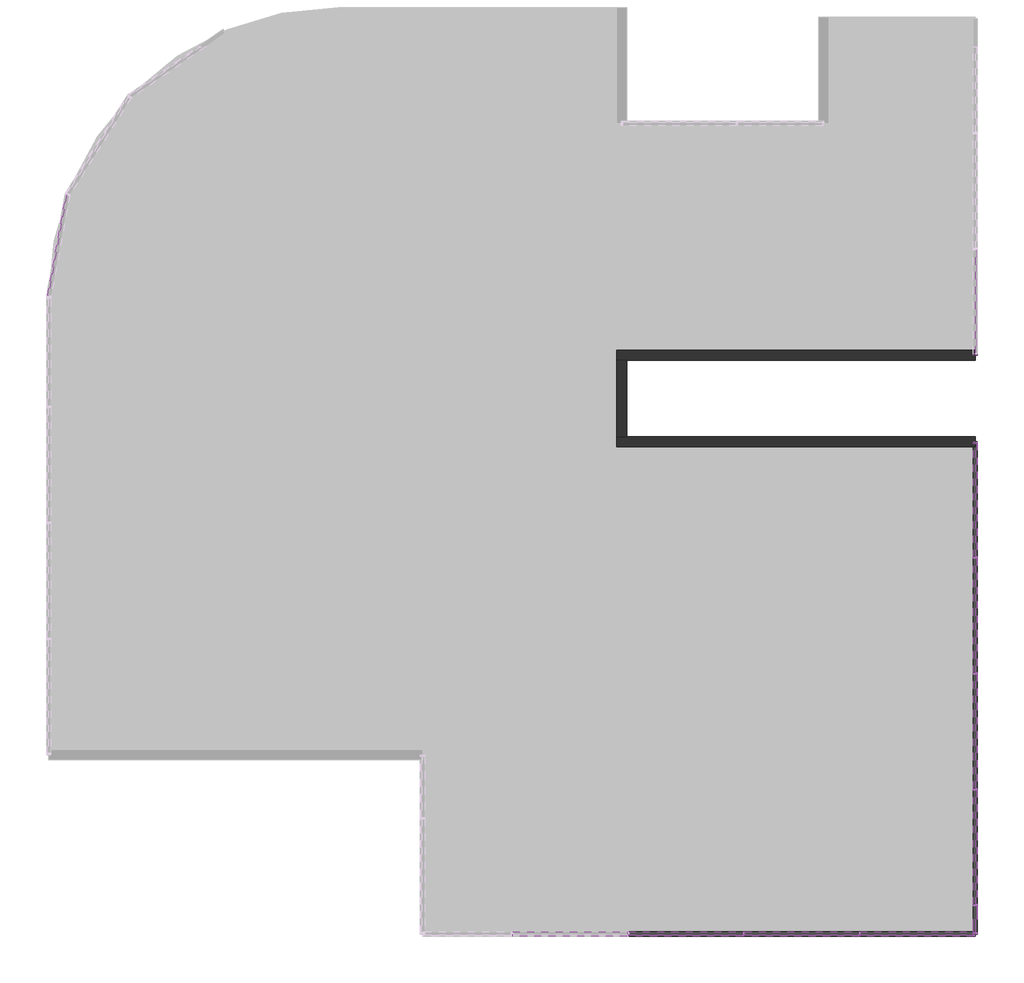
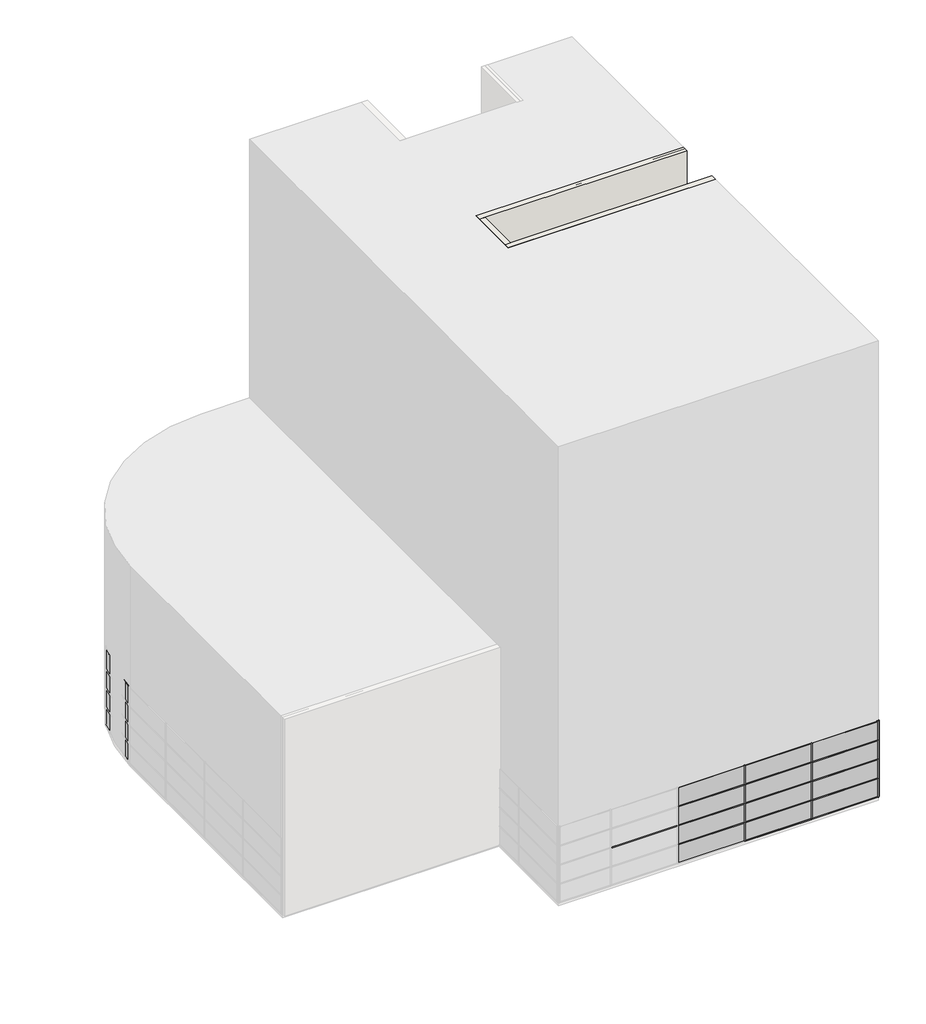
# One storey, part 2 of 5: 73 members, 40 plates, 3 walls.
"""IFC4 building model written with IfcOpenShell, lengths in millimetres."""

from ifc_helpers import new_model, si_unit, origin, origin_with_axes, place, context, project, spatial, polyline, outline, extrude, faceted_brep, transform, mapped, element, save
from components import rectangular_mullion_50_x_150mm_d99dc9be, rectangular_mullion_50_x_150mm_182bfbd5, rectangular_mullion_50_x_150mm_402ab136, rectangular_mullion_50_x_150mm_6588f46c, rectangular_mullion_50_x_150mm_a037c29c, rectangular_mullion_50_x_150mm_c2546fd4, rectangular_mullion_50_x_150mm_55b3505a, rectangular_mullion_50_x_150mm_116cff39, rectangular_mullion_50_x_150mm_a91aaa2b, system_panel_glazed_ecbc047f, system_panel_glazed_0d1816dc, system_panel_glazed_459c9171, system_panel_glazed_8e9402eb, system_panel_glazed_89ac83a7, system_panel_glazed_5566c609, system_panel_glazed_88115445, system_panel_glazed_8c18451d, system_panel_glazed_01970cee, system_panel_glazed_01c601c5

model = new_model("IFC4")

# Units and contexts
model_context = context("Model", 3, world=origin())
ifc_project = project(units=[si_unit("LENGTHUNIT", "METRE", prefix="MILLI")], contexts=[model_context])

# Site, building, storey
site = spatial("IfcSite", under=ifc_project)
building = spatial("IfcBuilding", under=site)
storey = spatial("IfcBuildingStorey", under=building, Name="Suteren", Elevation=0.0)

# Members
placement = place(None, origin())
rectangular_mullion_50_x_150mm_shape = rectangular_mullion_50_x_150mm_d99dc9be(model_context)
element("IfcMember", 1, ObjectType="Rectangular Mullion : 50 x 150mm", at=placement, inside=storey, context=model_context, shape_type="MappedRepresentation", body=[
    mapped(rectangular_mullion_50_x_150mm_shape, transform((13503.2660975, -10624.0160434, 2400.0), x_axis=(0.0, -1.0, 0.0), y_axis=(1.0, 0.0, 0.0), z_axis=(0.0, 0.0, 1.0))),
])
element("IfcMember", 2, ObjectType="Rectangular Mullion : 50 x 150mm", at=placement, inside=storey, context=model_context, shape_type="MappedRepresentation", body=[
    mapped(rectangular_mullion_50_x_150mm_shape, transform((13503.2660975, -10624.0160434, 3600.0), x_axis=(0.0, -1.0, 0.0), y_axis=(1.0, 0.0, 0.0), z_axis=(0.0, 0.0, 1.0))),
])
element("IfcMember", 3, ObjectType="Rectangular Mullion : 50 x 150mm", at=placement, inside=storey, context=model_context, shape_type="MappedRepresentation", body=[
    mapped(rectangular_mullion_50_x_150mm_shape, transform((13503.2660975, -10624.0160434, 4800.0), x_axis=(0.0, -1.0, 0.0), y_axis=(1.0, 0.0, 0.0), z_axis=(0.0, 0.0, 1.0))),
])
element("IfcMember", 4, ObjectType="Rectangular Mullion : 50 x 150mm", at=placement, inside=storey, context=model_context, shape_type="MappedRepresentation", body=[
    mapped(rectangular_mullion_50_x_150mm_shape, transform((13503.2660975, -14624.0160434, 2400.0), x_axis=(0.0, -1.0, 0.0), y_axis=(1.0, 0.0, 0.0), z_axis=(0.0, 0.0, 1.0))),
])
element("IfcMember", 5, ObjectType="Rectangular Mullion : 50 x 150mm", at=placement, inside=storey, context=model_context, shape_type="MappedRepresentation", body=[
    mapped(rectangular_mullion_50_x_150mm_shape, transform((13503.2660975, -14624.0160434, 3600.0), x_axis=(0.0, -1.0, 0.0), y_axis=(1.0, 0.0, 0.0), z_axis=(0.0, 0.0, 1.0))),
])
element("IfcMember", 6, ObjectType="Rectangular Mullion : 50 x 150mm", at=placement, inside=storey, context=model_context, shape_type="MappedRepresentation", body=[
    mapped(rectangular_mullion_50_x_150mm_shape, transform((13503.2660975, -14624.0160434, 4800.0), x_axis=(0.0, -1.0, 0.0), y_axis=(1.0, 0.0, 0.0), z_axis=(0.0, 0.0, 1.0))),
])
element("IfcMember", 7, ObjectType="Rectangular Mullion : 50 x 150mm", at=placement, inside=storey, context=model_context, shape_type="MappedRepresentation", body=[
    mapped(rectangular_mullion_50_x_150mm_shape, transform((13503.2660975, -18624.0160434, 2400.0), x_axis=(0.0, -1.0, 0.0), y_axis=(1.0, 0.0, 0.0), z_axis=(0.0, 0.0, 1.0))),
])
element("IfcMember", 8, ObjectType="Rectangular Mullion : 50 x 150mm", at=placement, inside=storey, context=model_context, shape_type="MappedRepresentation", body=[
    mapped(rectangular_mullion_50_x_150mm_shape, transform((13503.2660975, -18624.0160434, 3600.0), x_axis=(0.0, -1.0, 0.0), y_axis=(1.0, 0.0, 0.0), z_axis=(0.0, 0.0, 1.0))),
])
element("IfcMember", 9, ObjectType="Rectangular Mullion : 50 x 150mm", at=placement, inside=storey, context=model_context, shape_type="MappedRepresentation", body=[
    mapped(rectangular_mullion_50_x_150mm_shape, transform((13503.2660975, -18624.0160434, 4800.0), x_axis=(0.0, -1.0, 0.0), y_axis=(1.0, 0.0, 0.0), z_axis=(0.0, 0.0, 1.0))),
])
element("IfcMember", 10, ObjectType="Rectangular Mullion : 50 x 150mm", at=placement, inside=storey, context=model_context, shape_type="MappedRepresentation", body=[
    mapped(rectangular_mullion_50_x_150mm_shape, transform((13503.2660975, -22624.0160434, 2400.0), x_axis=(0.0, -1.0, 0.0), y_axis=(1.0, 0.0, 0.0), z_axis=(0.0, 0.0, 1.0))),
])
element("IfcMember", 11, ObjectType="Rectangular Mullion : 50 x 150mm", at=placement, inside=storey, context=model_context, shape_type="MappedRepresentation", body=[
    mapped(rectangular_mullion_50_x_150mm_shape, transform((13503.2660975, -22624.0160434, 3600.0), x_axis=(0.0, -1.0, 0.0), y_axis=(1.0, 0.0, 0.0), z_axis=(0.0, 0.0, 1.0))),
])
element("IfcMember", 12, ObjectType="Rectangular Mullion : 50 x 150mm", at=placement, inside=storey, context=model_context, shape_type="MappedRepresentation", body=[
    mapped(rectangular_mullion_50_x_150mm_shape, transform((13503.2660975, -22624.0160434, 4800.0), x_axis=(0.0, -1.0, 0.0), y_axis=(1.0, 0.0, 0.0), z_axis=(0.0, 0.0, 1.0))),
])
element("IfcMember", 13, ObjectType="Rectangular Mullion : 50 x 150mm", at=placement, inside=storey, context=model_context, shape_type="MappedRepresentation", body=[
    mapped(rectangular_mullion_50_x_150mm_shape, transform((9503.2660975, -23624.0160434, 2400.0), x_axis=(-1.0, 0.0, 0.0), y_axis=(0.0, -1.0, 0.0), z_axis=(0.0, 0.0, 1.0))),
])
element("IfcMember", 14, ObjectType="Rectangular Mullion : 50 x 150mm", at=placement, inside=storey, context=model_context, shape_type="MappedRepresentation", body=[
    mapped(rectangular_mullion_50_x_150mm_shape, transform((9503.2660975, -23624.0160434, 3600.0), x_axis=(-1.0, 0.0, 0.0), y_axis=(0.0, -1.0, 0.0), z_axis=(0.0, 0.0, 1.0))),
])
element("IfcMember", 15, ObjectType="Rectangular Mullion : 50 x 150mm", at=placement, inside=storey, context=model_context, shape_type="MappedRepresentation", body=[
    mapped(rectangular_mullion_50_x_150mm_shape, transform((9503.2660975, -23624.0160434, 4800.0), x_axis=(-1.0, 0.0, 0.0), y_axis=(0.0, -1.0, 0.0), z_axis=(0.0, 0.0, 1.0))),
])
element("IfcMember", 16, ObjectType="Rectangular Mullion : 50 x 150mm", at=placement, inside=storey, context=model_context, shape_type="MappedRepresentation", body=[
    mapped(rectangular_mullion_50_x_150mm_shape, transform((5503.2660975, -23624.0160434, 2400.0), x_axis=(-1.0, 0.0, 0.0), y_axis=(0.0, -1.0, 0.0), z_axis=(0.0, 0.0, 1.0))),
])
element("IfcMember", 17, ObjectType="Rectangular Mullion : 50 x 150mm", at=placement, inside=storey, context=model_context, shape_type="MappedRepresentation", body=[
    mapped(rectangular_mullion_50_x_150mm_shape, transform((5503.2660975, -23624.0160434, 3600.0), x_axis=(-1.0, 0.0, 0.0), y_axis=(0.0, -1.0, 0.0), z_axis=(0.0, 0.0, 1.0))),
])
element("IfcMember", 18, ObjectType="Rectangular Mullion : 50 x 150mm", at=placement, inside=storey, context=model_context, shape_type="MappedRepresentation", body=[
    mapped(rectangular_mullion_50_x_150mm_shape, transform((5503.2660975, -23624.0160434, 4800.0), x_axis=(-1.0, 0.0, 0.0), y_axis=(0.0, -1.0, 0.0), z_axis=(0.0, 0.0, 1.0))),
])
element("IfcMember", 19, ObjectType="Rectangular Mullion : 50 x 150mm", at=placement, inside=storey, context=model_context, shape_type="MappedRepresentation", body=[
    mapped(rectangular_mullion_50_x_150mm_shape, transform((13503.2660975, -10624.0160434, 1200.0), x_axis=(0.0, -1.0, 0.0), y_axis=(1.0, 0.0, 0.0), z_axis=(0.0, 0.0, 1.0))),
])
element("IfcMember", 20, ObjectType="Rectangular Mullion : 50 x 150mm", at=placement, inside=storey, context=model_context, shape_type="MappedRepresentation", body=[
    mapped(rectangular_mullion_50_x_150mm_shape, transform((13503.2660975, -14624.0160434, 1200.0), x_axis=(0.0, -1.0, 0.0), y_axis=(1.0, 0.0, 0.0), z_axis=(0.0, 0.0, 1.0))),
])
element("IfcMember", 21, ObjectType="Rectangular Mullion : 50 x 150mm", at=placement, inside=storey, context=model_context, shape_type="MappedRepresentation", body=[
    mapped(rectangular_mullion_50_x_150mm_shape, transform((13503.2660975, -18624.0160434, 1200.0), x_axis=(0.0, -1.0, 0.0), y_axis=(1.0, 0.0, 0.0), z_axis=(0.0, 0.0, 1.0))),
])
element("IfcMember", 22, ObjectType="Rectangular Mullion : 50 x 150mm", at=placement, inside=storey, context=model_context, shape_type="MappedRepresentation", body=[
    mapped(rectangular_mullion_50_x_150mm_shape, transform((13503.2660975, -22624.0160434, 1200.0), x_axis=(0.0, -1.0, 0.0), y_axis=(1.0, 0.0, 0.0), z_axis=(0.0, 0.0, 1.0))),
])
element("IfcMember", 23, ObjectType="Rectangular Mullion : 50 x 150mm", at=placement, inside=storey, context=model_context, shape_type="MappedRepresentation", body=[
    mapped(rectangular_mullion_50_x_150mm_shape, transform((9503.2660975, -23624.0160434, 1200.0), x_axis=(-1.0, 0.0, 0.0), y_axis=(0.0, -1.0, 0.0), z_axis=(0.0, 0.0, 1.0))),
])
element("IfcMember", 24, ObjectType="Rectangular Mullion : 50 x 150mm", at=placement, inside=storey, context=model_context, shape_type="MappedRepresentation", body=[
    mapped(rectangular_mullion_50_x_150mm_shape, transform((5503.2660975, -23624.0160434, 1200.0), x_axis=(-1.0, 0.0, 0.0), y_axis=(0.0, -1.0, 0.0), z_axis=(0.0, 0.0, 1.0))),
])
rectangular_mullion_50_x_150mm_2_shape = rectangular_mullion_50_x_150mm_182bfbd5(model_context)
element("IfcMember", 25, ObjectType="Rectangular Mullion : 50 x 150mm", at=placement, inside=storey, context=model_context, shape_type="MappedRepresentation", body=[
    mapped(rectangular_mullion_50_x_150mm_2_shape, transform((13503.2660975, -14599.0160434, 0.0), x_axis=(0.0, 0.0, -1.0), y_axis=(1.0, 0.0, 0.0), z_axis=(0.0, -1.0, 0.0))),
])
element("IfcMember", 26, ObjectType="Rectangular Mullion : 50 x 150mm", at=placement, inside=storey, context=model_context, shape_type="MappedRepresentation", body=[
    mapped(rectangular_mullion_50_x_150mm_2_shape, transform((13503.2660975, -18599.0160434, 0.0), x_axis=(0.0, 0.0, -1.0), y_axis=(1.0, 0.0, 0.0), z_axis=(0.0, -1.0, 0.0))),
])
element("IfcMember", 27, ObjectType="Rectangular Mullion : 50 x 150mm", at=placement, inside=storey, context=model_context, shape_type="MappedRepresentation", body=[
    mapped(rectangular_mullion_50_x_150mm_2_shape, transform((13503.2660975, -22599.0160434, 0.0), x_axis=(0.0, 0.0, -1.0), y_axis=(1.0, 0.0, 0.0), z_axis=(0.0, -1.0, 0.0))),
])
element("IfcMember", 28, ObjectType="Rectangular Mullion : 50 x 150mm", at=placement, inside=storey, context=model_context, shape_type="MappedRepresentation", body=[
    mapped(rectangular_mullion_50_x_150mm_2_shape, transform((5528.2660975, -23624.0160434, 0.0), x_axis=(0.0, 0.0, -1.0), y_axis=(0.0, -1.0, 0.0), z_axis=(-1.0, 0.0, 0.0))),
])
rectangular_mullion_50_x_150mm_3_shape = rectangular_mullion_50_x_150mm_402ab136(model_context)
element("IfcMember", 29, ObjectType="Rectangular Mullion : 50 x 150mm", at=placement, inside=storey, context=model_context, shape_type="MappedRepresentation", body=[
    mapped(rectangular_mullion_50_x_150mm_3_shape, transform((13503.2660975, -10599.0160434, 0.0), x_axis=(0.0, 0.0, -1.0), y_axis=(1.0, 0.0, 0.0), z_axis=(0.0, -1.0, 0.0))),
])
element("IfcMember", 30, ObjectType="Rectangular Mullion : 50 x 150mm", at=placement, inside=storey, context=model_context, shape_type="MappedRepresentation", body=[
    mapped(rectangular_mullion_50_x_150mm_3_shape, transform((9528.2660975, -23624.0160434, 0.0), x_axis=(0.0, 0.0, -1.0), y_axis=(0.0, -1.0, 0.0), z_axis=(-1.0, 0.0, 0.0))),
])
rectangular_mullion_50_x_150mm_4_shape = rectangular_mullion_50_x_150mm_6588f46c(model_context)
element("IfcMember", 31, ObjectType="Rectangular Mullion : 50 x 150mm", at=placement, inside=storey, context=model_context, shape_type="MappedRepresentation", body=[
    mapped(rectangular_mullion_50_x_150mm_4_shape, transform((13503.2660975, -3624.0160434, 4800.0), x_axis=(0.0, -1.0, 0.0), y_axis=(1.0, 0.0, 0.0), z_axis=(0.0, 0.0, 1.0))),
])
element("IfcMember", 32, ObjectType="Rectangular Mullion : 50 x 150mm", at=placement, inside=storey, context=model_context, shape_type="MappedRepresentation", body=[
    mapped(rectangular_mullion_50_x_150mm_4_shape, transform((13503.2660975, -3624.0160434, 3600.0), x_axis=(0.0, -1.0, 0.0), y_axis=(1.0, 0.0, 0.0), z_axis=(0.0, 0.0, 1.0))),
])
element("IfcMember", 33, ObjectType="Rectangular Mullion : 50 x 150mm", at=placement, inside=storey, context=model_context, shape_type="MappedRepresentation", body=[
    mapped(rectangular_mullion_50_x_150mm_4_shape, transform((13503.2660975, -3624.0160434, 2400.0), x_axis=(0.0, -1.0, 0.0), y_axis=(1.0, 0.0, 0.0), z_axis=(0.0, 0.0, 1.0))),
])
element("IfcMember", 34, ObjectType="Rectangular Mullion : 50 x 150mm", at=placement, inside=storey, context=model_context, shape_type="MappedRepresentation", body=[
    mapped(rectangular_mullion_50_x_150mm_4_shape, transform((13503.2660975, -23624.0160434, 2400.0), x_axis=(0.0, -1.0, 0.0), y_axis=(1.0, 0.0, 0.0), z_axis=(0.0, 0.0, 1.0))),
])
element("IfcMember", 35, ObjectType="Rectangular Mullion : 50 x 150mm", at=placement, inside=storey, context=model_context, shape_type="MappedRepresentation", body=[
    mapped(rectangular_mullion_50_x_150mm_4_shape, transform((13503.2660975, -23624.0160434, 3600.0), x_axis=(0.0, -1.0, 0.0), y_axis=(1.0, 0.0, 0.0), z_axis=(0.0, 0.0, 1.0))),
])
element("IfcMember", 36, ObjectType="Rectangular Mullion : 50 x 150mm", at=placement, inside=storey, context=model_context, shape_type="MappedRepresentation", body=[
    mapped(rectangular_mullion_50_x_150mm_4_shape, transform((13503.2660975, -23624.0160434, 4800.0), x_axis=(0.0, -1.0, 0.0), y_axis=(1.0, 0.0, 0.0), z_axis=(0.0, 0.0, 1.0))),
])
element("IfcMember", 37, ObjectType="Rectangular Mullion : 50 x 150mm", at=placement, inside=storey, context=model_context, shape_type="MappedRepresentation", body=[
    mapped(rectangular_mullion_50_x_150mm_4_shape, transform((13503.2660975, -3624.0160434, 1200.0), x_axis=(0.0, -1.0, 0.0), y_axis=(1.0, 0.0, 0.0), z_axis=(0.0, 0.0, 1.0))),
])
element("IfcMember", 38, ObjectType="Rectangular Mullion : 50 x 150mm", at=placement, inside=storey, context=model_context, shape_type="MappedRepresentation", body=[
    mapped(rectangular_mullion_50_x_150mm_4_shape, transform((13503.2660975, -23624.0160434, 1200.0), x_axis=(0.0, -1.0, 0.0), y_axis=(1.0, 0.0, 0.0), z_axis=(0.0, 0.0, 1.0))),
])
rectangular_mullion_50_x_150mm_5_shape = rectangular_mullion_50_x_150mm_a037c29c(model_context)
element("IfcMember", 39, ObjectType="Rectangular Mullion : 50 x 150mm", at=placement, inside=storey, context=model_context, shape_type="MappedRepresentation", body=[
    mapped(rectangular_mullion_50_x_150mm_5_shape, transform((13503.2660975, -14649.0160434, 1200.0), x_axis=(0.0, 0.0, 1.0), y_axis=(1.0, 0.0, 0.0), z_axis=(0.0, 1.0, 0.0))),
])
element("IfcMember", 40, ObjectType="Rectangular Mullion : 50 x 150mm", at=placement, inside=storey, context=model_context, shape_type="MappedRepresentation", body=[
    mapped(rectangular_mullion_50_x_150mm_5_shape, transform((13503.2660975, -10649.0160434, 1200.0), x_axis=(0.0, 0.0, 1.0), y_axis=(1.0, 0.0, 0.0), z_axis=(0.0, 1.0, 0.0))),
])
element("IfcMember", 41, ObjectType="Rectangular Mullion : 50 x 150mm", at=placement, inside=storey, context=model_context, shape_type="MappedRepresentation", body=[
    mapped(rectangular_mullion_50_x_150mm_5_shape, transform((13503.2660975, -18649.0160434, 3600.0), x_axis=(0.0, 0.0, 1.0), y_axis=(1.0, 0.0, 0.0), z_axis=(0.0, 1.0, 0.0))),
])
element("IfcMember", 42, ObjectType="Rectangular Mullion : 50 x 150mm", at=placement, inside=storey, context=model_context, shape_type="MappedRepresentation", body=[
    mapped(rectangular_mullion_50_x_150mm_5_shape, transform((13503.2660975, -18649.0160434, 1200.0), x_axis=(0.0, 0.0, 1.0), y_axis=(1.0, 0.0, 0.0), z_axis=(0.0, 1.0, 0.0))),
])
element("IfcMember", 43, ObjectType="Rectangular Mullion : 50 x 150mm", at=placement, inside=storey, context=model_context, shape_type="MappedRepresentation", body=[
    mapped(rectangular_mullion_50_x_150mm_5_shape, transform((13503.2660975, -10649.0160434, 2400.0), x_axis=(0.0, 0.0, 1.0), y_axis=(1.0, 0.0, 0.0), z_axis=(0.0, 1.0, 0.0))),
])
element("IfcMember", 44, ObjectType="Rectangular Mullion : 50 x 150mm", at=placement, inside=storey, context=model_context, shape_type="MappedRepresentation", body=[
    mapped(rectangular_mullion_50_x_150mm_5_shape, transform((13503.2660975, -14649.0160434, 2400.0), x_axis=(0.0, 0.0, 1.0), y_axis=(1.0, 0.0, 0.0), z_axis=(0.0, 1.0, 0.0))),
])
element("IfcMember", 45, ObjectType="Rectangular Mullion : 50 x 150mm", at=placement, inside=storey, context=model_context, shape_type="MappedRepresentation", body=[
    mapped(rectangular_mullion_50_x_150mm_5_shape, transform((13503.2660975, -18649.0160434, 2400.0), x_axis=(0.0, 0.0, 1.0), y_axis=(1.0, 0.0, 0.0), z_axis=(0.0, 1.0, 0.0))),
])
element("IfcMember", 46, ObjectType="Rectangular Mullion : 50 x 150mm", at=placement, inside=storey, context=model_context, shape_type="MappedRepresentation", body=[
    mapped(rectangular_mullion_50_x_150mm_5_shape, transform((13503.2660975, -10649.0160434, 3600.0), x_axis=(0.0, 0.0, 1.0), y_axis=(1.0, 0.0, 0.0), z_axis=(0.0, 1.0, 0.0))),
])
element("IfcMember", 47, ObjectType="Rectangular Mullion : 50 x 150mm", at=placement, inside=storey, context=model_context, shape_type="MappedRepresentation", body=[
    mapped(rectangular_mullion_50_x_150mm_5_shape, transform((13503.2660975, -14649.0160434, 3600.0), x_axis=(0.0, 0.0, 1.0), y_axis=(1.0, 0.0, 0.0), z_axis=(0.0, 1.0, 0.0))),
])
element("IfcMember", 48, ObjectType="Rectangular Mullion : 50 x 150mm", at=placement, inside=storey, context=model_context, shape_type="MappedRepresentation", body=[
    mapped(rectangular_mullion_50_x_150mm_5_shape, transform((5478.2660975, -23624.0160434, 3600.0), x_axis=(0.0, 0.0, 1.0), y_axis=(0.0, -1.0, 0.0), z_axis=(1.0, 0.0, 0.0))),
])
element("IfcMember", 49, ObjectType="Rectangular Mullion : 50 x 150mm", at=placement, inside=storey, context=model_context, shape_type="MappedRepresentation", body=[
    mapped(rectangular_mullion_50_x_150mm_5_shape, transform((5478.2660975, -23624.0160434, 1200.0), x_axis=(0.0, 0.0, 1.0), y_axis=(0.0, -1.0, 0.0), z_axis=(1.0, 0.0, 0.0))),
])
element("IfcMember", 50, ObjectType="Rectangular Mullion : 50 x 150mm", at=placement, inside=storey, context=model_context, shape_type="MappedRepresentation", body=[
    mapped(rectangular_mullion_50_x_150mm_5_shape, transform((9478.2660975, -23624.0160434, 2400.0), x_axis=(0.0, 0.0, 1.0), y_axis=(0.0, -1.0, 0.0), z_axis=(1.0, 0.0, 0.0))),
])
element("IfcMember", 51, ObjectType="Rectangular Mullion : 50 x 150mm", at=placement, inside=storey, context=model_context, shape_type="MappedRepresentation", body=[
    mapped(rectangular_mullion_50_x_150mm_5_shape, transform((5478.2660975, -23624.0160434, 2400.0), x_axis=(0.0, 0.0, 1.0), y_axis=(0.0, -1.0, 0.0), z_axis=(1.0, 0.0, 0.0))),
])
element("IfcMember", 52, ObjectType="Rectangular Mullion : 50 x 150mm", at=placement, inside=storey, context=model_context, shape_type="MappedRepresentation", body=[
    mapped(rectangular_mullion_50_x_150mm_5_shape, transform((1478.2660975, -23624.0160434, 2400.0), x_axis=(0.0, 0.0, 1.0), y_axis=(0.0, -1.0, 0.0), z_axis=(1.0, 0.0, 0.0))),
])
element("IfcMember", 53, ObjectType="Rectangular Mullion : 50 x 150mm", at=placement, inside=storey, context=model_context, shape_type="MappedRepresentation", body=[
    mapped(rectangular_mullion_50_x_150mm_5_shape, transform((9478.2660975, -23624.0160434, 3600.0), x_axis=(0.0, 0.0, 1.0), y_axis=(0.0, -1.0, 0.0), z_axis=(1.0, 0.0, 0.0))),
])
element("IfcMember", 54, ObjectType="Rectangular Mullion : 50 x 150mm", at=placement, inside=storey, context=model_context, shape_type="MappedRepresentation", body=[
    mapped(rectangular_mullion_50_x_150mm_5_shape, transform((9478.2660975, -23624.0160434, 1200.0), x_axis=(0.0, 0.0, 1.0), y_axis=(0.0, -1.0, 0.0), z_axis=(1.0, 0.0, 0.0))),
])
rectangular_mullion_50_x_150mm_6_shape = rectangular_mullion_50_x_150mm_c2546fd4(model_context)
element("IfcMember", 55, ObjectType="Rectangular Mullion : 50 x 150mm", at=placement, inside=storey, context=model_context, shape_type="MappedRepresentation", body=[
    mapped(rectangular_mullion_50_x_150mm_6_shape, transform((13503.2660975, -6674.0160434, 1200.0), x_axis=(0.0, 0.0, 1.0), y_axis=(1.0, 0.0, 0.0), z_axis=(0.0, 1.0, 0.0))),
])
element("IfcMember", 56, ObjectType="Rectangular Mullion : 50 x 150mm", at=placement, inside=storey, context=model_context, shape_type="MappedRepresentation", body=[
    mapped(rectangular_mullion_50_x_150mm_6_shape, transform((13503.2660975, -6674.0160434, 2400.0), x_axis=(0.0, 0.0, 1.0), y_axis=(1.0, 0.0, 0.0), z_axis=(0.0, 1.0, 0.0))),
])
element("IfcMember", 57, ObjectType="Rectangular Mullion : 50 x 150mm", at=placement, inside=storey, context=model_context, shape_type="MappedRepresentation", body=[
    mapped(rectangular_mullion_50_x_150mm_6_shape, transform((13503.2660975, -6674.0160434, 3600.0), x_axis=(0.0, 0.0, 1.0), y_axis=(1.0, 0.0, 0.0), z_axis=(0.0, 1.0, 0.0))),
])
element("IfcMember", 58, ObjectType="Rectangular Mullion : 50 x 150mm", at=placement, inside=storey, context=model_context, shape_type="MappedRepresentation", body=[
    mapped(rectangular_mullion_50_x_150mm_6_shape, transform((13453.2660975, -23624.0160434, 2400.0), x_axis=(0.0, 0.0, 1.0), y_axis=(0.0, -1.0, 0.0), z_axis=(1.0, 0.0, 0.0))),
])
element("IfcMember", 59, ObjectType="Rectangular Mullion : 50 x 150mm", at=placement, inside=storey, context=model_context, shape_type="MappedRepresentation", body=[
    mapped(rectangular_mullion_50_x_150mm_6_shape, transform((13453.2660975, -23624.0160434, 3600.0), x_axis=(0.0, 0.0, 1.0), y_axis=(0.0, -1.0, 0.0), z_axis=(1.0, 0.0, 0.0))),
])
element("IfcMember", 60, ObjectType="Rectangular Mullion : 50 x 150mm", at=placement, inside=storey, context=model_context, shape_type="MappedRepresentation", body=[
    mapped(rectangular_mullion_50_x_150mm_6_shape, transform((13453.2660975, -23624.0160434, 1200.0), x_axis=(0.0, 0.0, 1.0), y_axis=(0.0, -1.0, 0.0), z_axis=(1.0, 0.0, 0.0))),
])
rectangular_mullion_50_x_150mm_7_shape = rectangular_mullion_50_x_150mm_55b3505a(model_context)
element("IfcMember", 61, ObjectType="Rectangular Mullion : 50 x 150mm", at=placement, inside=storey, context=model_context, shape_type="MappedRepresentation", body=[
    mapped(rectangular_mullion_50_x_150mm_7_shape, transform((13503.2660975, -3574.0160434, 0.0), x_axis=(0.0, 0.0, -1.0), y_axis=(1.0, 0.0, 0.0), z_axis=(0.0, -1.0, 0.0))),
])
element("IfcMember", 62, ObjectType="Rectangular Mullion : 50 x 150mm", at=placement, inside=storey, context=model_context, shape_type="MappedRepresentation", body=[
    mapped(rectangular_mullion_50_x_150mm_4_shape, transform((13503.2660975, -6624.0160434, 1200.0), x_axis=(0.0, 1.0, 0.0), y_axis=(1.0, 0.0, 0.0), z_axis=(0.0, 0.0, -1.0))),
])
element("IfcMember", 63, ObjectType="Rectangular Mullion : 50 x 150mm", at=placement, inside=storey, context=model_context, shape_type="MappedRepresentation", body=[
    mapped(rectangular_mullion_50_x_150mm_4_shape, transform((13503.2660975, -6624.0160434, 2400.0), x_axis=(0.0, 1.0, 0.0), y_axis=(1.0, 0.0, 0.0), z_axis=(0.0, 0.0, -1.0))),
])
element("IfcMember", 64, ObjectType="Rectangular Mullion : 50 x 150mm", at=placement, inside=storey, context=model_context, shape_type="MappedRepresentation", body=[
    mapped(rectangular_mullion_50_x_150mm_4_shape, transform((13503.2660975, -6624.0160434, 3600.0), x_axis=(0.0, 1.0, 0.0), y_axis=(1.0, 0.0, 0.0), z_axis=(0.0, 0.0, -1.0))),
])
element("IfcMember", 65, ObjectType="Rectangular Mullion : 50 x 150mm", at=placement, inside=storey, context=model_context, shape_type="MappedRepresentation", body=[
    mapped(rectangular_mullion_50_x_150mm_4_shape, transform((13503.2660975, -23624.0160434, 1200.0), x_axis=(1.0, 0.0, 0.0), y_axis=(0.0, -1.0, 0.0), z_axis=(0.0, 0.0, -1.0))),
])
element("IfcMember", 66, ObjectType="Rectangular Mullion : 50 x 150mm", at=placement, inside=storey, context=model_context, shape_type="MappedRepresentation", body=[
    mapped(rectangular_mullion_50_x_150mm_4_shape, transform((13503.2660975, -23624.0160434, 2400.0), x_axis=(1.0, 0.0, 0.0), y_axis=(0.0, -1.0, 0.0), z_axis=(0.0, 0.0, -1.0))),
])
element("IfcMember", 67, ObjectType="Rectangular Mullion : 50 x 150mm", at=placement, inside=storey, context=model_context, shape_type="MappedRepresentation", body=[
    mapped(rectangular_mullion_50_x_150mm_4_shape, transform((13503.2660975, -23624.0160434, 3600.0), x_axis=(1.0, 0.0, 0.0), y_axis=(0.0, -1.0, 0.0), z_axis=(0.0, 0.0, -1.0))),
])
element("IfcMember", 68, ObjectType="Rectangular Mullion : 50 x 150mm", at=placement, inside=storey, context=model_context, shape_type="MappedRepresentation", body=[
    mapped(rectangular_mullion_50_x_150mm_4_shape, transform((13503.2660975, -6624.0160434, 0.0), x_axis=(0.0, 1.0, 0.0), y_axis=(1.0, 0.0, 0.0), z_axis=(0.0, 0.0, -1.0))),
])
element("IfcMember", 69, ObjectType="Rectangular Mullion : 50 x 150mm", at=placement, inside=storey, context=model_context, shape_type="MappedRepresentation", body=[
    mapped(rectangular_mullion_50_x_150mm_4_shape, transform((13503.2660975, -23624.0160434, 0.0), x_axis=(1.0, 0.0, 0.0), y_axis=(0.0, -1.0, 0.0), z_axis=(0.0, 0.0, -1.0))),
])
rectangular_mullion_50_x_150mm_8_shape = rectangular_mullion_50_x_150mm_116cff39(model_context)
element("IfcMember", 70, ObjectType="Rectangular Mullion : 50 x 150mm", at=placement, inside=storey, context=model_context, shape_type="MappedRepresentation", body=[
    mapped(rectangular_mullion_50_x_150mm_8_shape, transform((13503.2660975, -22649.0160434, 3600.0), x_axis=(0.0, 0.0, 1.0), y_axis=(1.0, 0.0, 0.0), z_axis=(0.0, 1.0, 0.0))),
])
element("IfcMember", 71, ObjectType="Rectangular Mullion : 50 x 150mm", at=placement, inside=storey, context=model_context, shape_type="MappedRepresentation", body=[
    mapped(rectangular_mullion_50_x_150mm_8_shape, transform((13503.2660975, -22649.0160434, 1200.0), x_axis=(0.0, 0.0, 1.0), y_axis=(1.0, 0.0, 0.0), z_axis=(0.0, 1.0, 0.0))),
])
element("IfcMember", 72, ObjectType="Rectangular Mullion : 50 x 150mm", at=placement, inside=storey, context=model_context, shape_type="MappedRepresentation", body=[
    mapped(rectangular_mullion_50_x_150mm_8_shape, transform((13503.2660975, -22649.0160434, 2400.0), x_axis=(0.0, 0.0, 1.0), y_axis=(1.0, 0.0, 0.0), z_axis=(0.0, 1.0, 0.0))),
])
rectangular_mullion_50_x_150mm_9_shape = rectangular_mullion_50_x_150mm_a91aaa2b(model_context)
element("IfcMember", 73, ObjectType="Rectangular Mullion : 50 x 150mm", at=placement, inside=storey, context=model_context, shape_type="MappedRepresentation", body=[
    mapped(rectangular_mullion_50_x_150mm_9_shape, transform((13503.2660975, -23574.0160434, 0.0), x_axis=(0.0, 0.0, -1.0), y_axis=(1.0, 0.0, 0.0), z_axis=(0.0, -1.0, 0.0))),
])

# Plates
system_panel_glazed_shape = system_panel_glazed_ecbc047f(model_context)
element("IfcPlate", 74, ObjectType="System Panel : Glazed", at=placement, inside=storey, context=model_context, shape_type="MappedRepresentation", body=[
    mapped(system_panel_glazed_shape, transform((11490.7660975, -23624.0160434, 50.0), x_axis=(-1.0, 0.0, 0.0), y_axis=(0.0, -1.0, 0.0), z_axis=(0.0, 0.0, 1.0))),
])
element("IfcPlate", 75, ObjectType="System Panel : Glazed", at=placement, inside=storey, context=model_context, shape_type="MappedRepresentation", body=[
    mapped(system_panel_glazed_shape, transform((13503.2660975, -8636.5160434, 50.0), x_axis=(0.0, -1.0, 0.0), y_axis=(1.0, 0.0, 0.0), z_axis=(0.0, 0.0, 1.0))),
])
system_panel_glazed_2_shape = system_panel_glazed_0d1816dc(model_context)
element("IfcPlate", 76, ObjectType="System Panel : Glazed", at=placement, inside=storey, context=model_context, shape_type="MappedRepresentation", body=[
    mapped(system_panel_glazed_2_shape, transform((7503.2660975, -23624.0160434, 50.0), x_axis=(-1.0, 0.0, 0.0), y_axis=(0.0, -1.0, 0.0), z_axis=(0.0, 0.0, 1.0))),
])
element("IfcPlate", 77, ObjectType="System Panel : Glazed", at=placement, inside=storey, context=model_context, shape_type="MappedRepresentation", body=[
    mapped(system_panel_glazed_2_shape, transform((3503.2660975, -23624.0160434, 50.0), x_axis=(-1.0, 0.0, 0.0), y_axis=(0.0, -1.0, 0.0), z_axis=(0.0, 0.0, 1.0))),
])
element("IfcPlate", 78, ObjectType="System Panel : Glazed", at=placement, inside=storey, context=model_context, shape_type="MappedRepresentation", body=[
    mapped(system_panel_glazed_2_shape, transform((13503.2660975, -12624.0160434, 50.0), x_axis=(0.0, -1.0, 0.0), y_axis=(1.0, 0.0, 0.0), z_axis=(0.0, 0.0, 1.0))),
])
element("IfcPlate", 79, ObjectType="System Panel : Glazed", at=placement, inside=storey, context=model_context, shape_type="MappedRepresentation", body=[
    mapped(system_panel_glazed_2_shape, transform((13503.2660975, -16624.0160434, 50.0), x_axis=(0.0, -1.0, 0.0), y_axis=(1.0, 0.0, 0.0), z_axis=(0.0, 0.0, 1.0))),
])
element("IfcPlate", 80, ObjectType="System Panel : Glazed", at=placement, inside=storey, context=model_context, shape_type="MappedRepresentation", body=[
    mapped(system_panel_glazed_2_shape, transform((13503.2660975, -20624.0160434, 50.0), x_axis=(0.0, -1.0, 0.0), y_axis=(1.0, 0.0, 0.0), z_axis=(0.0, 0.0, 1.0))),
])
system_panel_glazed_3_shape = system_panel_glazed_459c9171(model_context)
element("IfcPlate", 81, ObjectType="System Panel : Glazed", at=placement, inside=storey, context=model_context, shape_type="MappedRepresentation", body=[
    mapped(system_panel_glazed_3_shape, transform((13503.2660975, -1779.830251, 50.0), x_axis=(0.0, -1.0, 0.0), y_axis=(1.0, 0.0, 0.0), z_axis=(0.0, 0.0, 1.0))),
])
system_panel_glazed_4_shape = system_panel_glazed_8e9402eb(model_context)
element("IfcPlate", 82, ObjectType="System Panel : Glazed", at=placement, inside=storey, context=model_context, shape_type="MappedRepresentation", body=[
    mapped(system_panel_glazed_4_shape, transform((11490.7660975, -23624.0160434, 1225.0), x_axis=(-1.0, 0.0, 0.0), y_axis=(0.0, -1.0, 0.0), z_axis=(0.0, 0.0, 1.0))),
])
element("IfcPlate", 83, ObjectType="System Panel : Glazed", at=placement, inside=storey, context=model_context, shape_type="MappedRepresentation", body=[
    mapped(system_panel_glazed_4_shape, transform((11490.7660975, -23624.0160434, 2425.0), x_axis=(-1.0, 0.0, 0.0), y_axis=(0.0, -1.0, 0.0), z_axis=(0.0, 0.0, 1.0))),
])
element("IfcPlate", 84, ObjectType="System Panel : Glazed", at=placement, inside=storey, context=model_context, shape_type="MappedRepresentation", body=[
    mapped(system_panel_glazed_4_shape, transform((11490.7660975, -23624.0160434, 3625.0), x_axis=(-1.0, 0.0, 0.0), y_axis=(0.0, -1.0, 0.0), z_axis=(0.0, 0.0, 1.0))),
])
element("IfcPlate", 85, ObjectType="System Panel : Glazed", at=placement, inside=storey, context=model_context, shape_type="MappedRepresentation", body=[
    mapped(system_panel_glazed_4_shape, transform((13503.2660975, -8636.5160434, 1225.0), x_axis=(0.0, -1.0, 0.0), y_axis=(1.0, 0.0, 0.0), z_axis=(0.0, 0.0, 1.0))),
])
element("IfcPlate", 86, ObjectType="System Panel : Glazed", at=placement, inside=storey, context=model_context, shape_type="MappedRepresentation", body=[
    mapped(system_panel_glazed_4_shape, transform((13503.2660975, -8636.5160434, 2425.0), x_axis=(0.0, -1.0, 0.0), y_axis=(1.0, 0.0, 0.0), z_axis=(0.0, 0.0, 1.0))),
])
element("IfcPlate", 87, ObjectType="System Panel : Glazed", at=placement, inside=storey, context=model_context, shape_type="MappedRepresentation", body=[
    mapped(system_panel_glazed_4_shape, transform((13503.2660975, -8636.5160434, 3625.0), x_axis=(0.0, -1.0, 0.0), y_axis=(1.0, 0.0, 0.0), z_axis=(0.0, 0.0, 1.0))),
])
system_panel_glazed_5_shape = system_panel_glazed_89ac83a7(model_context)
element("IfcPlate", 88, ObjectType="System Panel : Glazed", at=placement, inside=storey, context=model_context, shape_type="MappedRepresentation", body=[
    mapped(system_panel_glazed_5_shape, transform((7503.2660975, -23624.0160434, 1225.0), x_axis=(-1.0, 0.0, 0.0), y_axis=(0.0, -1.0, 0.0), z_axis=(0.0, 0.0, 1.0))),
])
element("IfcPlate", 89, ObjectType="System Panel : Glazed", at=placement, inside=storey, context=model_context, shape_type="MappedRepresentation", body=[
    mapped(system_panel_glazed_5_shape, transform((3503.2660975, -23624.0160434, 1225.0), x_axis=(-1.0, 0.0, 0.0), y_axis=(0.0, -1.0, 0.0), z_axis=(0.0, 0.0, 1.0))),
])
element("IfcPlate", 90, ObjectType="System Panel : Glazed", at=placement, inside=storey, context=model_context, shape_type="MappedRepresentation", body=[
    mapped(system_panel_glazed_5_shape, transform((7503.2660975, -23624.0160434, 2425.0), x_axis=(-1.0, 0.0, 0.0), y_axis=(0.0, -1.0, 0.0), z_axis=(0.0, 0.0, 1.0))),
])
element("IfcPlate", 91, ObjectType="System Panel : Glazed", at=placement, inside=storey, context=model_context, shape_type="MappedRepresentation", body=[
    mapped(system_panel_glazed_5_shape, transform((3503.2660975, -23624.0160434, 2425.0), x_axis=(-1.0, 0.0, 0.0), y_axis=(0.0, -1.0, 0.0), z_axis=(0.0, 0.0, 1.0))),
])
element("IfcPlate", 92, ObjectType="System Panel : Glazed", at=placement, inside=storey, context=model_context, shape_type="MappedRepresentation", body=[
    mapped(system_panel_glazed_5_shape, transform((7503.2660975, -23624.0160434, 3625.0), x_axis=(-1.0, 0.0, 0.0), y_axis=(0.0, -1.0, 0.0), z_axis=(0.0, 0.0, 1.0))),
])
element("IfcPlate", 93, ObjectType="System Panel : Glazed", at=placement, inside=storey, context=model_context, shape_type="MappedRepresentation", body=[
    mapped(system_panel_glazed_5_shape, transform((3503.2660975, -23624.0160434, 3625.0), x_axis=(-1.0, 0.0, 0.0), y_axis=(0.0, -1.0, 0.0), z_axis=(0.0, 0.0, 1.0))),
])
element("IfcPlate", 94, ObjectType="System Panel : Glazed", at=placement, inside=storey, context=model_context, shape_type="MappedRepresentation", body=[
    mapped(system_panel_glazed_5_shape, transform((13503.2660975, -12624.0160434, 1225.0), x_axis=(0.0, -1.0, 0.0), y_axis=(1.0, 0.0, 0.0), z_axis=(0.0, 0.0, 1.0))),
])
element("IfcPlate", 95, ObjectType="System Panel : Glazed", at=placement, inside=storey, context=model_context, shape_type="MappedRepresentation", body=[
    mapped(system_panel_glazed_5_shape, transform((13503.2660975, -16624.0160434, 1225.0), x_axis=(0.0, -1.0, 0.0), y_axis=(1.0, 0.0, 0.0), z_axis=(0.0, 0.0, 1.0))),
])
element("IfcPlate", 96, ObjectType="System Panel : Glazed", at=placement, inside=storey, context=model_context, shape_type="MappedRepresentation", body=[
    mapped(system_panel_glazed_5_shape, transform((13503.2660975, -20624.0160434, 1225.0), x_axis=(0.0, -1.0, 0.0), y_axis=(1.0, 0.0, 0.0), z_axis=(0.0, 0.0, 1.0))),
])
element("IfcPlate", 97, ObjectType="System Panel : Glazed", at=placement, inside=storey, context=model_context, shape_type="MappedRepresentation", body=[
    mapped(system_panel_glazed_5_shape, transform((13503.2660975, -12624.0160434, 2425.0), x_axis=(0.0, -1.0, 0.0), y_axis=(1.0, 0.0, 0.0), z_axis=(0.0, 0.0, 1.0))),
])
element("IfcPlate", 98, ObjectType="System Panel : Glazed", at=placement, inside=storey, context=model_context, shape_type="MappedRepresentation", body=[
    mapped(system_panel_glazed_5_shape, transform((13503.2660975, -16624.0160434, 2425.0), x_axis=(0.0, -1.0, 0.0), y_axis=(1.0, 0.0, 0.0), z_axis=(0.0, 0.0, 1.0))),
])
element("IfcPlate", 99, ObjectType="System Panel : Glazed", at=placement, inside=storey, context=model_context, shape_type="MappedRepresentation", body=[
    mapped(system_panel_glazed_5_shape, transform((13503.2660975, -20624.0160434, 2425.0), x_axis=(0.0, -1.0, 0.0), y_axis=(1.0, 0.0, 0.0), z_axis=(0.0, 0.0, 1.0))),
])
element("IfcPlate", 100, ObjectType="System Panel : Glazed", at=placement, inside=storey, context=model_context, shape_type="MappedRepresentation", body=[
    mapped(system_panel_glazed_5_shape, transform((13503.2660975, -12624.0160434, 3625.0), x_axis=(0.0, -1.0, 0.0), y_axis=(1.0, 0.0, 0.0), z_axis=(0.0, 0.0, 1.0))),
])
element("IfcPlate", 101, ObjectType="System Panel : Glazed", at=placement, inside=storey, context=model_context, shape_type="MappedRepresentation", body=[
    mapped(system_panel_glazed_5_shape, transform((13503.2660975, -16624.0160434, 3625.0), x_axis=(0.0, -1.0, 0.0), y_axis=(1.0, 0.0, 0.0), z_axis=(0.0, 0.0, 1.0))),
])
element("IfcPlate", 102, ObjectType="System Panel : Glazed", at=placement, inside=storey, context=model_context, shape_type="MappedRepresentation", body=[
    mapped(system_panel_glazed_5_shape, transform((13503.2660975, -20624.0160434, 3625.0), x_axis=(0.0, -1.0, 0.0), y_axis=(1.0, 0.0, 0.0), z_axis=(0.0, 0.0, 1.0))),
])
system_panel_glazed_6_shape = system_panel_glazed_5566c609(model_context)
element("IfcPlate", 103, ObjectType="System Panel : Glazed", at=placement, inside=storey, context=model_context, shape_type="MappedRepresentation", body=[
    mapped(system_panel_glazed_6_shape, transform((13503.2660975, -1779.830251, 1225.0), x_axis=(0.0, -1.0, 0.0), y_axis=(1.0, 0.0, 0.0), z_axis=(0.0, 0.0, 1.0))),
])
element("IfcPlate", 104, ObjectType="System Panel : Glazed", at=placement, inside=storey, context=model_context, shape_type="MappedRepresentation", body=[
    mapped(system_panel_glazed_6_shape, transform((13503.2660975, -1779.830251, 2425.0), x_axis=(0.0, -1.0, 0.0), y_axis=(1.0, 0.0, 0.0), z_axis=(0.0, 0.0, 1.0))),
])
element("IfcPlate", 105, ObjectType="System Panel : Glazed", at=placement, inside=storey, context=model_context, shape_type="MappedRepresentation", body=[
    mapped(system_panel_glazed_6_shape, transform((13503.2660975, -1779.830251, 3625.0), x_axis=(0.0, -1.0, 0.0), y_axis=(1.0, 0.0, 0.0), z_axis=(0.0, 0.0, 1.0))),
])
system_panel_glazed_7_shape = system_panel_glazed_88115445(model_context)
element("IfcPlate", 106, ObjectType="System Panel : Glazed", at=placement, inside=storey, context=model_context, shape_type="MappedRepresentation", body=[
    mapped(system_panel_glazed_7_shape, transform((13503.2660975, -23111.5160434, 50.0), x_axis=(0.0, -1.0, 0.0), y_axis=(1.0, 0.0, 0.0), z_axis=(0.0, 0.0, 1.0))),
])
system_panel_glazed_8_shape = system_panel_glazed_8c18451d(model_context)
element("IfcPlate", 107, ObjectType="System Panel : Glazed", at=placement, inside=storey, context=model_context, shape_type="MappedRepresentation", body=[
    mapped(system_panel_glazed_8_shape, transform((13503.2660975, -23111.5160434, 1225.0), x_axis=(0.0, -1.0, 0.0), y_axis=(1.0, 0.0, 0.0), z_axis=(0.0, 0.0, 1.0))),
])
element("IfcPlate", 108, ObjectType="System Panel : Glazed", at=placement, inside=storey, context=model_context, shape_type="MappedRepresentation", body=[
    mapped(system_panel_glazed_8_shape, transform((13503.2660975, -23111.5160434, 2425.0), x_axis=(0.0, -1.0, 0.0), y_axis=(1.0, 0.0, 0.0), z_axis=(0.0, 0.0, 1.0))),
])
element("IfcPlate", 109, ObjectType="System Panel : Glazed", at=placement, inside=storey, context=model_context, shape_type="MappedRepresentation", body=[
    mapped(system_panel_glazed_8_shape, transform((13503.2660975, -23111.5160434, 3625.0), x_axis=(0.0, -1.0, 0.0), y_axis=(1.0, 0.0, 0.0), z_axis=(0.0, 0.0, 1.0))),
])
system_panel_glazed_9_shape = system_panel_glazed_01970cee(model_context)
element("IfcPlate", 110, ObjectType="System Panel : Glazed", at=placement, inside=storey, context=model_context, shape_type="MappedRepresentation", body=[
    mapped(system_panel_glazed_9_shape, transform((-18169.2819315, 162.0390281, 50.0), x_axis=(-0.18033241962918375, -0.9836057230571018, 0.0), y_axis=(0.9836057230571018, -0.18033241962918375, 0.0), z_axis=(0.0, 0.0, 1.0))),
])
system_panel_glazed_10_shape = system_panel_glazed_01c601c5(model_context)
element("IfcPlate", 111, ObjectType="System Panel : Glazed", at=placement, inside=storey, context=model_context, shape_type="MappedRepresentation", body=[
    mapped(system_panel_glazed_10_shape, transform((-18169.2819315, 162.0390281, 1225.0), x_axis=(-0.18033241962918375, -0.9836057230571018, 0.0), y_axis=(0.9836057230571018, -0.18033241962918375, 0.0), z_axis=(0.0, 0.0, 1.0))),
])
element("IfcPlate", 112, ObjectType="System Panel : Glazed", at=placement, inside=storey, context=model_context, shape_type="MappedRepresentation", body=[
    mapped(system_panel_glazed_10_shape, transform((-18169.2819315, 162.0390281, 2425.0), x_axis=(-0.18033241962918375, -0.9836057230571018, 0.0), y_axis=(0.9836057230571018, -0.18033241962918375, 0.0), z_axis=(0.0, 0.0, 1.0))),
])
element("IfcPlate", 113, ObjectType="System Panel : Glazed", at=placement, inside=storey, context=model_context, shape_type="MappedRepresentation", body=[
    mapped(system_panel_glazed_10_shape, transform((-18169.2819315, 162.0390281, 3625.0), x_axis=(-0.18033241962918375, -0.9836057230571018, 0.0), y_axis=(0.9836057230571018, -0.18033241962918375, 0.0), z_axis=(0.0, 0.0, 1.0))),
])

# Walls
element("IfcWall", 114, ObjectType="Exterior - Brick on Mtl. Stud", at=placement, inside=storey, context=model_context, shape_type="Brep", body=[
    faceted_brep([(13503.2660975, -6439.0160434, 0.0), (1463.419219, -6439.0160434, 0.0), (1113.419219, -6439.0160434, 0.0), (1113.419219, -6439.0160434, 28773.2453384), (1463.419219, -6439.0160434, 28773.2453384), (13503.2660975, -6439.0160434, 28773.2453384), (13503.2660975, -6789.0160434, 0.0), (13503.2660975, -6789.0160434, 28773.2453384), (1113.419219, -6789.0160434, 28773.2453384), (1113.419219, -6789.0160434, 0.0)], [[[0, 1, 2, 3, 4, 5]], [[6, 7, 8, 9]], [[2, 1, 0, 6, 9]], [[5, 4, 3, 8, 7]], [[0, 5, 7, 6]], [[3, 2, 9, 8]]]),
])
element("IfcWall", 115, ObjectType="Exterior - Brick on Mtl. Stud", at=placement, inside=storey, context=model_context, shape_type="Brep", body=[
    faceted_brep([(1113.419219, -3809.0160434, 0.0), (1463.419219, -3809.0160434, 0.0), (13503.2660975, -3809.0160434, 0.0), (13503.2660975, -3809.0160434, 28773.2453384), (1463.419219, -3809.0160434, 28773.2453384), (1113.419219, -3809.0160434, 28773.2453384), (1113.419219, -3459.0160434, 0.0), (1113.419219, -3459.0160434, 28773.2453384), (13503.2660975, -3459.0160434, 28773.2453384), (13503.2660975, -3459.0160434, 0.0)], [[[0, 1, 2, 3, 4, 5]], [[6, 7, 8, 9]], [[2, 1, 0, 6, 9]], [[3, 2, 9, 8]], [[5, 4, 3, 8, 7]], [[0, 5, 7, 6]]]),
])
element("IfcWall", 116, ObjectType="Exterior - Brick on Mtl. Stud", at=placement, inside=storey, context=model_context, shape_type="SweptSolid", body=[
    extrude(outline(polyline([(1463.419219, -3809.0160434), (1463.419219, -6439.0160434), (1113.419219, -6439.0160434), (1113.419219, -3809.0160434), (1463.419219, -3809.0160434)])), origin_with_axes(), (0.0, 0.0, 1.0), 28773.2453384),
])

save(model, "model.ifc")
